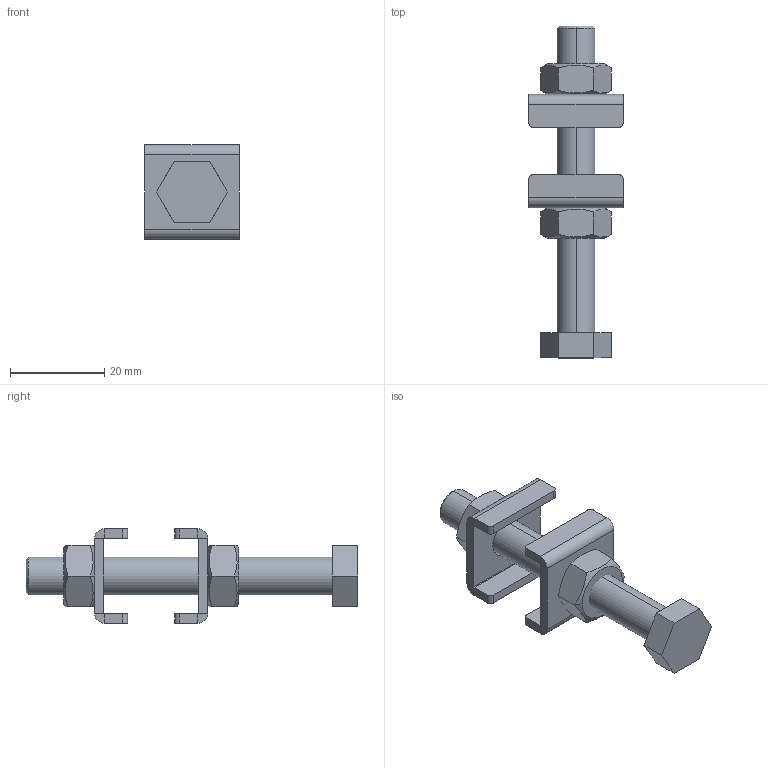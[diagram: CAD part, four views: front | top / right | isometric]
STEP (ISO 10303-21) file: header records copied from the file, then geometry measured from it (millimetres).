
FILE_DESCRIPTION (( 'STEP AP203' ), '1' );
FILE_NAME ('PS-M8.STEP', '2011-05-20T20:08:24', ( 'Usuario' ), ( '' ), 'SwSTEP 2.0', 'SolidWorks 2011', '' );
FILE_SCHEMA (( 'CONFIG_CONTROL_DESIGN' ));
Length unit declared in the file: millimetre
Products named in the file (4): 12.50020; PS-M8; 14.10001; 11.50002
Assembly tree (5 placements, depth 2):
  PS-M8
    12.50020
    14.10001  x2
    11.50002  x2
Bounding box: 20 x 70.3 x 20 mm (x, y, z)
Volume: 7529.3 mm3; surface area: 5963.5 mm2
Topology: 5 solids, 5 shells, 105 faces, 240 edges, 146 vertices
Faces by surface type: plane 61, cylinder 26, cone 18
Entity records: 2220 total; most frequent: CARTESIAN_POINT 407, DIRECTION 298, ORIENTED_EDGE 268, EDGE_CURVE 134, AXIS2_PLACEMENT_3D 109, VERTEX_POINT 82, LINE 80, VECTOR 80
